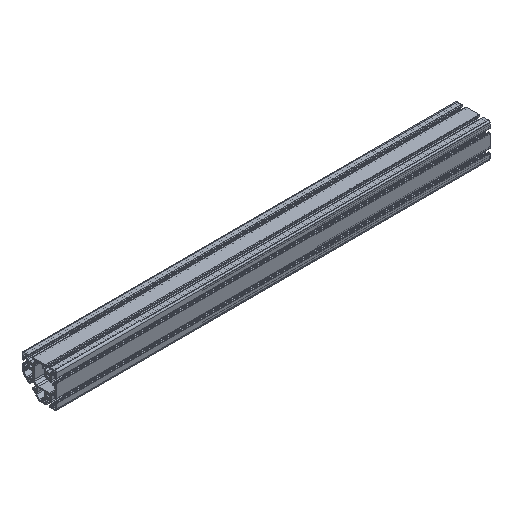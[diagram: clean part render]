
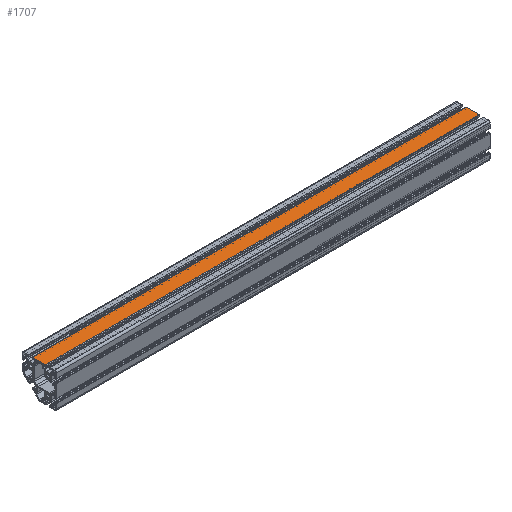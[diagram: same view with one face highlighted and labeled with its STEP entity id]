
A CAD part, isometric view. The second image highlights one B-rep face of the part: STEP entity #1707.
In plain terms, the highlighted planar face has unit normal (0, 0, 1).
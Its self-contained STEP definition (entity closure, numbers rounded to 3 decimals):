
#99 = LINE ( 'NONE', #8119, #5867 ) ;
#194 = ORIENTED_EDGE ( 'NONE', *, *, #2185, .T. ) ;
#323 = CARTESIAN_POINT ( 'NONE',  ( 1000., -15., 40. ) ) ;
#469 = VECTOR ( 'NONE', #7489, 1000. ) ;
#773 = AXIS2_PLACEMENT_3D ( 'NONE', #3131, #3358, #8864 ) ;
#1201 = CARTESIAN_POINT ( 'NONE',  ( 1000., -15., 40. ) ) ;
#1503 = CARTESIAN_POINT ( 'NONE',  ( 1000., 15., 40. ) ) ;
#1707 = ADVANCED_FACE ( 'NONE', ( #1951 ), #3096, .F. ) ;
#1785 = ORIENTED_EDGE ( 'NONE', *, *, #6204, .F. ) ;
#1806 = VERTEX_POINT ( 'NONE', #8181 ) ;
#1843 = DIRECTION ( 'NONE',  ( -1., 0., 0. ) ) ;
#1859 = EDGE_CURVE ( 'NONE', #8622, #9615, #4897, .T. ) ;
#1951 = FACE_OUTER_BOUND ( 'NONE', #9545, .T. ) ;
#2137 = VECTOR ( 'NONE', #5814, 1000. ) ;
#2185 = EDGE_CURVE ( 'NONE', #6854, #1806, #99, .T. ) ;
#2429 = DIRECTION ( 'NONE',  ( 0., -1., 0. ) ) ;
#2793 = ORIENTED_EDGE ( 'NONE', *, *, #1859, .F. ) ;
#3096 = PLANE ( 'NONE',  #773 ) ;
#3131 = CARTESIAN_POINT ( 'NONE',  ( 1000., -15., 40. ) ) ;
#3216 = CARTESIAN_POINT ( 'NONE',  ( 1000., -15., 40. ) ) ;
#3358 = DIRECTION ( 'NONE',  ( 0., 0., -1. ) ) ;
#3996 = CARTESIAN_POINT ( 'NONE',  ( 0., -15., 40. ) ) ;
#4512 = CARTESIAN_POINT ( 'NONE',  ( 0., -15., 40. ) ) ;
#4897 = LINE ( 'NONE', #1201, #469 ) ;
#5071 = ORIENTED_EDGE ( 'NONE', *, *, #7182, .T. ) ;
#5814 = DIRECTION ( 'NONE',  ( 0., -1., 0. ) ) ;
#5867 = VECTOR ( 'NONE', #1843, 1000. ) ;
#5967 = LINE ( 'NONE', #3996, #9895 ) ;
#6204 = EDGE_CURVE ( 'NONE', #6854, #8622, #8649, .T. ) ;
#6854 = VERTEX_POINT ( 'NONE', #1503 ) ;
#7182 = EDGE_CURVE ( 'NONE', #1806, #9615, #5967, .T. ) ;
#7489 = DIRECTION ( 'NONE',  ( -1., 0., 0. ) ) ;
#8119 = CARTESIAN_POINT ( 'NONE',  ( 1000., 15., 40. ) ) ;
#8181 = CARTESIAN_POINT ( 'NONE',  ( 0., 15., 40. ) ) ;
#8622 = VERTEX_POINT ( 'NONE', #3216 ) ;
#8649 = LINE ( 'NONE', #323, #2137 ) ;
#8864 = DIRECTION ( 'NONE',  ( -1., 0., 0. ) ) ;
#9545 = EDGE_LOOP ( 'NONE', ( #5071, #2793, #1785, #194 ) ) ;
#9615 = VERTEX_POINT ( 'NONE', #4512 ) ;
#9895 = VECTOR ( 'NONE', #2429, 1000. ) ;
